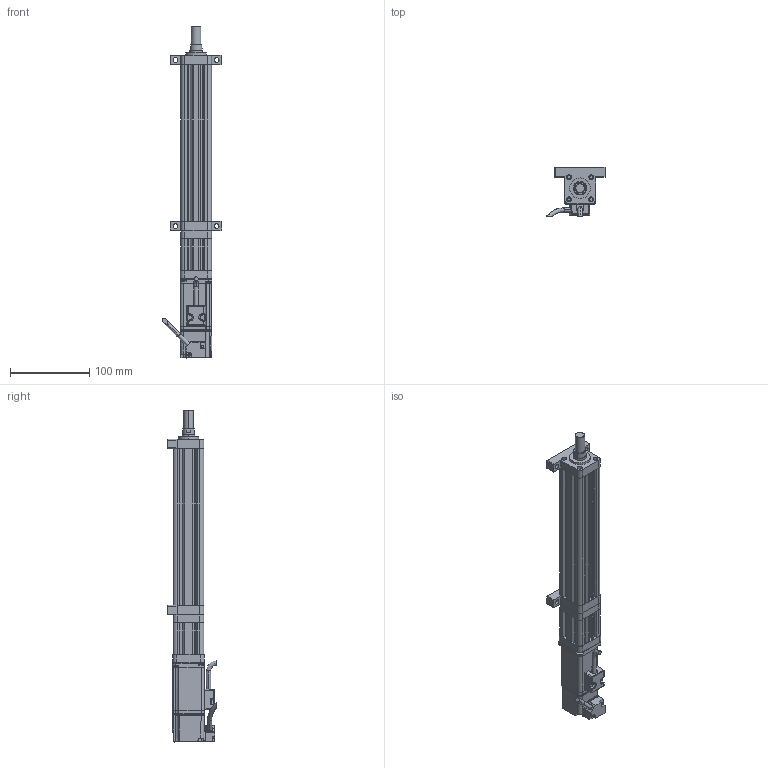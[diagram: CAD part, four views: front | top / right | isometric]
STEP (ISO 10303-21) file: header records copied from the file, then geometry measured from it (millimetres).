
FILE_DESCRIPTION (( 'STEP AP214' ), '1' );
FILE_NAME ('039-S150-D02-A-M2-C1-2.STEP', '2021-03-02T05:34:06', ( '' ), ( '' ), 'SwSTEP 2.0', 'SolidWorks 2018', '' );
FILE_SCHEMA (( 'AUTOMOTIVE_DESIGN' ));
Length unit declared in the file: millimetre
Products named in the file (9): CMC039-QDB; CMC039-HDB; CMC039-DJZ; CMC039-DT; CMC039-GT; 039-S150-D02-A-M2-C1-2; ECMA-CX0401ES-40框號系列機種-100W低慣量系列; CMC039-AZB; CMC039-ZLLJB
Assembly tree (8 placements, depth 2):
  039-S150-D02-A-M2-C1-2
    CMC039-GT
    CMC039-DT
    CMC039-ZLLJB
    CMC039-DJZ
    ECMA-CX0401ES-40框號系列機種-100W低慣量系列
    CMC039-AZB
    CMC039-HDB
    CMC039-QDB
Bounding box: 75.34 x 61.89 x 419.6 mm (x, y, z)
Volume: 444630.1 mm3; surface area: 137446.3 mm2
Topology: 8 solids, 16 shells, 738 faces, 1946 edges, 1225 vertices
Faces by surface type: cylinder 308, plane 307, bspline 84, cone 39
Entity records: 29028 total; most frequent: CARTESIAN_POINT 11402, ORIENTED_EDGE 3826, DIRECTION 3171, EDGE_CURVE 1913, VERTEX_POINT 1225, AXIS2_PLACEMENT_3D 1081, VECTOR 1009, LINE 1009
